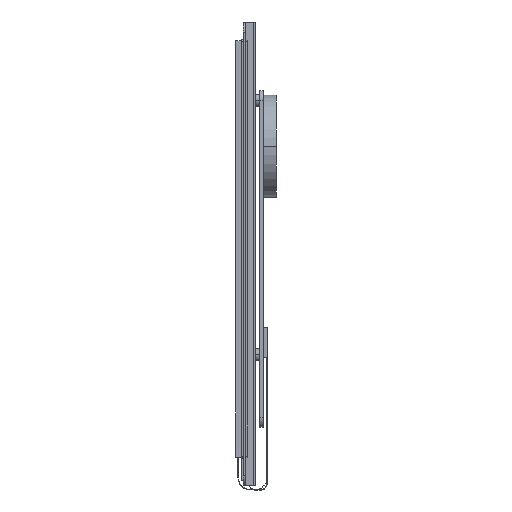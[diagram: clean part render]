
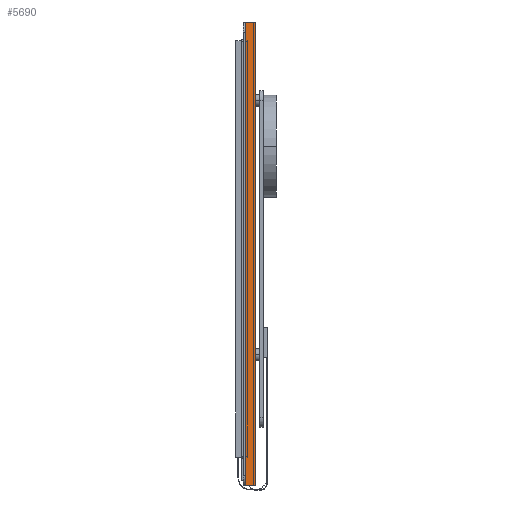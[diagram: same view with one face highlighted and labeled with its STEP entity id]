
A CAD part, left-side view. The second image highlights one B-rep face of the part: STEP entity #5690.
In plain terms, the highlighted planar face has unit normal (-1, 0, 0).
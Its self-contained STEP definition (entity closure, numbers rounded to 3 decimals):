
#722=DIRECTION('',(0.,-1.,0.));
#723=VECTOR('',#722,5.1);
#724=CARTESIAN_POINT('',(-183.23,-2.,-119.));
#725=LINE('',#724,#723);
#786=DIRECTION('',(0.,0.,1.));
#787=VECTOR('',#786,229.);
#788=CARTESIAN_POINT('',(-183.23,-2.,-119.));
#789=LINE('',#788,#787);
#790=DIRECTION('',(0.,-1.,0.));
#791=VECTOR('',#790,5.1);
#792=CARTESIAN_POINT('',(-183.23,-2.,110.));
#793=LINE('',#792,#791);
#804=DIRECTION('',(0.,0.,1.));
#805=VECTOR('',#804,229.);
#806=CARTESIAN_POINT('',(-183.23,-7.1,-119.));
#807=LINE('',#806,#805);
#3745=CARTESIAN_POINT('',(-183.23,-7.1,-119.));
#3746=VERTEX_POINT('',#3745);
#3747=CARTESIAN_POINT('',(-183.23,-7.1,110.));
#3748=VERTEX_POINT('',#3747);
#3833=CARTESIAN_POINT('',(-183.23,-2.,-119.));
#3834=VERTEX_POINT('',#3833);
#3989=CARTESIAN_POINT('',(-183.23,-2.,110.));
#3990=VERTEX_POINT('',#3989);
#5678=CARTESIAN_POINT('',(-183.23,-2.,-119.));
#5679=DIRECTION('',(-1.,0.,0.));
#5680=DIRECTION('',(0.,-1.,0.));
#5681=AXIS2_PLACEMENT_3D('',#5678,#5679,#5680);
#5682=PLANE('',#5681);
#5683=ORIENTED_EDGE('',*,*,#5642,.F.);
#5684=ORIENTED_EDGE('',*,*,#5560,.T.);
#5685=ORIENTED_EDGE('',*,*,#5527,.T.);
#5687=ORIENTED_EDGE('',*,*,#5686,.F.);
#5688=EDGE_LOOP('',(#5683,#5684,#5685,#5687));
#5689=FACE_OUTER_BOUND('',#5688,.F.);
#5527=EDGE_CURVE('',#3990,#3748,#793,.T.);
#5560=EDGE_CURVE('',#3834,#3990,#789,.T.);
#5642=EDGE_CURVE('',#3834,#3746,#725,.T.);
#5686=EDGE_CURVE('',#3746,#3748,#807,.T.);
#5690=ADVANCED_FACE('',(#5689),#5682,.T.);
